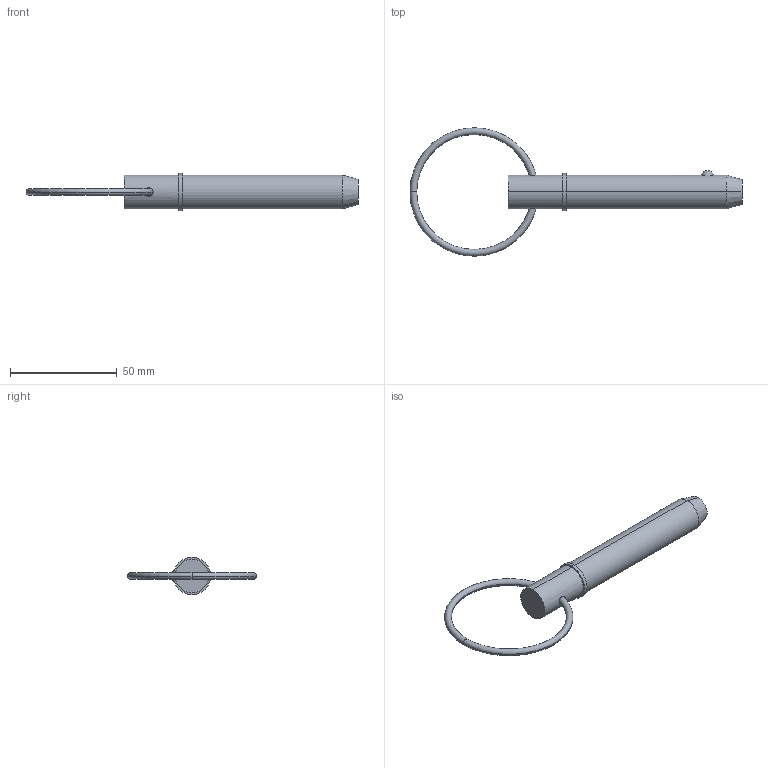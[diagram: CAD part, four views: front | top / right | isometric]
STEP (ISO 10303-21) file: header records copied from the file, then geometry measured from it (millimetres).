
FILE_DESCRIPTION (( 'STEP AP203' ), '1' );
FILE_NAME ('33016.W6225.step', '2024-11-07T11:12:35', ( '' ), ( '' ), 'SwSTEP 2.0', 'SolidWorks 2019', '' );
FILE_SCHEMA (( 'CONFIG_CONTROL_DESIGN' ));
Length unit declared in the file: millimetre
Products named in the file (3): Part1_33016.W6225; 33016.W6225; Part2_33016.W6225
Assembly tree (2 placements, depth 2):
  33016.W6225
    Part1_33016.W6225
    Part2_33016.W6225
Bounding box: 155.88 x 60.33 x 17.47 mm (x, y, z)
Volume: 22749 mm3; surface area: 7827.6 mm2
Topology: 2 solids, 2 shells, 22 faces, 43 edges, 26 vertices
Faces by surface type: torus 8, cylinder 6, plane 4, sphere 2, cone 2
Entity records: 1047 total; most frequent: CARTESIAN_POINT 270, DIRECTION 120, ORIENTED_EDGE 86, AXIS2_PLACEMENT_3D 56, EDGE_CURVE 43, CIRCLE 29, EDGE_LOOP 27, PERSON_AND_ORGANIZATION 26
